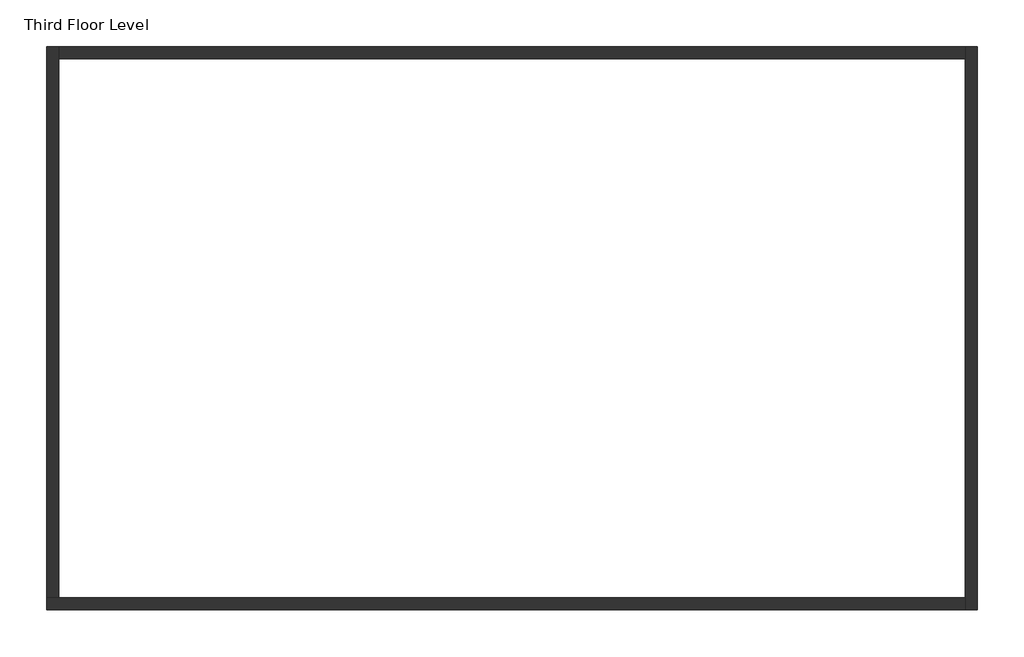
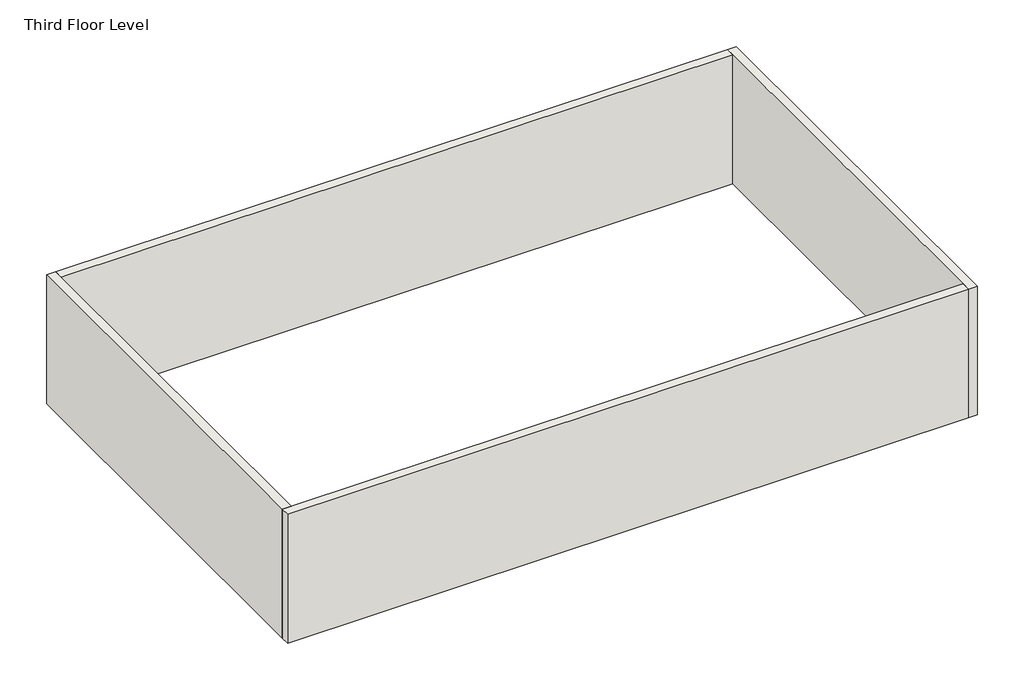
# One storey: 4 walls.
"""IFC4 building model written with IfcOpenShell, lengths in millimetres."""

from ifc_helpers import new_model, si_unit, frame, origin, place, context, project, spatial, polyline, outline, extrude, faceted_brep, element, save

model = new_model("IFC4")

# Units and contexts
model_context = context("Model", 3, world=origin())
ifc_project = project(units=[si_unit("LENGTHUNIT", "METRE", prefix="MILLI")], contexts=[model_context])

# Site, building, storey
site = spatial("IfcSite", under=ifc_project)
building = spatial("IfcBuilding", under=site)
storey = spatial("IfcBuildingStorey", under=building, Name="Third Floor Level", Elevation=6096.0)

# Walls
placement = place(None, origin())
element("IfcWall", 1, ObjectType="Generic - 8\"", at=placement, inside=storey, context=model_context, shape_type="Brep", body=[
    faceted_brep([(-11062.1324207, -4509.9593364, 6096.0), (4177.8675793, -4509.9593364, 6096.0), (4177.8675793, -4509.9593364, 9144.0), (-11062.1324207, -4509.9593364, 9144.0), (-11062.1324207, -4306.7593364, 6096.0), (-11062.1324207, -4306.7593364, 9144.0), (-10858.9324207, -4306.7593364, 9144.0), (4177.8675793, -4306.7593364, 9144.0), (4177.8675793, -4306.7593364, 6096.0), (-10858.9324207, -4306.7593364, 6096.0)], [[[0, 1, 2, 3]], [[4, 5, 6, 7, 8, 9]], [[1, 0, 4, 9, 8]], [[3, 2, 7, 6, 5]], [[0, 3, 5, 4]], [[2, 1, 8, 7]]]),
])
element("IfcWall", 2, ObjectType="Generic - 8\"", at=placement, inside=storey, context=model_context, shape_type="Brep", body=[
    faceted_brep([(-11062.1324207, 4837.2406636, 6096.0), (-11062.1324207, -4306.7593364, 6096.0), (-11062.1324207, -4306.7593364, 9144.0), (-11062.1324207, 4837.2406636, 9144.0), (-10858.9324207, 4837.2406636, 6096.0), (-10858.9324207, 4837.2406636, 9144.0), (-10858.9324207, 4634.0406636, 9144.0), (-10858.9324207, -4306.7593364, 9144.0), (-10858.9324207, -4306.7593364, 6096.0), (-10858.9324207, 4634.0406636, 6096.0)], [[[0, 1, 2, 3]], [[4, 5, 6, 7, 8, 9]], [[1, 0, 4, 9, 8]], [[3, 2, 7, 6, 5]], [[0, 3, 5, 4]], [[2, 1, 8, 7]]]),
])
element("IfcWall", 3, ObjectType="Generic - 8\"", at=placement, inside=storey, context=model_context, shape_type="SweptSolid", body=[
    extrude(outline(polyline([(-10858.9324207, 4837.2406636), (4177.8675793, 4837.2406636), (4177.8675793, 4634.0406636), (-10858.9324207, 4634.0406636), (-10858.9324207, 4837.2406636)])), frame((0.0, 0.0, 6096.0), z_axis=(0.0, 0.0, 1.0), x_axis=(1.0, 0.0, 0.0)), (0.0, 0.0, 1.0), 3048.0),
])
element("IfcWall", 4, ObjectType="Generic - 8\"", at=placement, inside=storey, context=model_context, shape_type="Brep", body=[
    faceted_brep([(4381.0675793, -4509.9593364, 6096.0), (4381.0675793, 4837.2406636, 6096.0), (4381.0675793, 4837.2406636, 9144.0), (4381.0675793, -4509.9593364, 9144.0), (4177.8675793, -4509.9593364, 6096.0), (4177.8675793, -4509.9593364, 9144.0), (4177.8675793, -4306.7593364, 9144.0), (4177.8675793, 4634.0406636, 9144.0), (4177.8675793, 4837.2406636, 9144.0), (4177.8675793, 4837.2406636, 6096.0), (4177.8675793, 4634.0406636, 6096.0), (4177.8675793, -4306.7593364, 6096.0)], [[[0, 1, 2, 3]], [[4, 5, 6, 7, 8, 9, 10, 11]], [[1, 0, 4, 11, 10, 9]], [[3, 2, 8, 7, 6, 5]], [[0, 3, 5, 4]], [[2, 1, 9, 8]]]),
])

save(model, "model.ifc")
